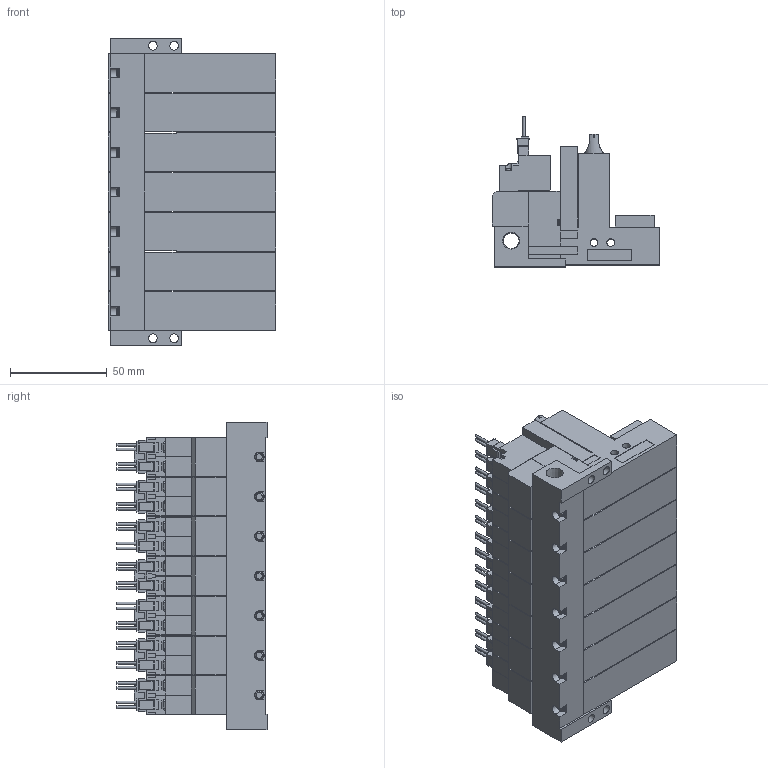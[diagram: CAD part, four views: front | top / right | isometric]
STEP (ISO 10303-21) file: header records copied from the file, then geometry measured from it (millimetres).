
FILE_DESCRIPTION(('STEP AP203'),'1');
FILE_NAME('ZL5BLR707.stp','2025-02-25T02:04:13',(' '),(' '),'Spatial InterOp 3D',' ',' ');
FILE_SCHEMA(('CONFIG_CONTROL_DESIGN'));
Length unit declared in the file: millimetre
Products named in the file (5): BMC22M※※※※ZL5BLR707; Solenoid valve B; Pressure sensor ZL; Unit L; Base MR70R
Assembly tree (22 placements, depth 2):
  BMC22M※※※※ZL5BLR707
    Solenoid valve B  x7
    Pressure sensor ZL  x7
    Unit L  x7
    Base MR70R
Bounding box: 86.6 x 77.45 x 159 mm (x, y, z)
Volume: 535170.4 mm3; surface area: 151500.1 mm2
Topology: 22 solids, 22 shells, 2275 faces, 6191 edges, 4086 vertices
Faces by surface type: plane 1960, cylinder 243, cone 51, torus 21
Full cylindrical faces by diameter (mm): 1.4 x28, 2.5 x7, 3 x28, 3.5 x28, 3.6 x7, 4 x14, 4.134 x7, 4.5 x4, 5.2 x7, 6 x7, 6.6 x7, 8.279 x1
Entity records: 13703 total; most frequent: CARTESIAN_POINT 2662, DIRECTION 2182, ORIENTED_EDGE 2096, EDGE_CURVE 1048, LINE 828, VECTOR 828, VERTEX_POINT 742, AXIS2_PLACEMENT_3D 677
